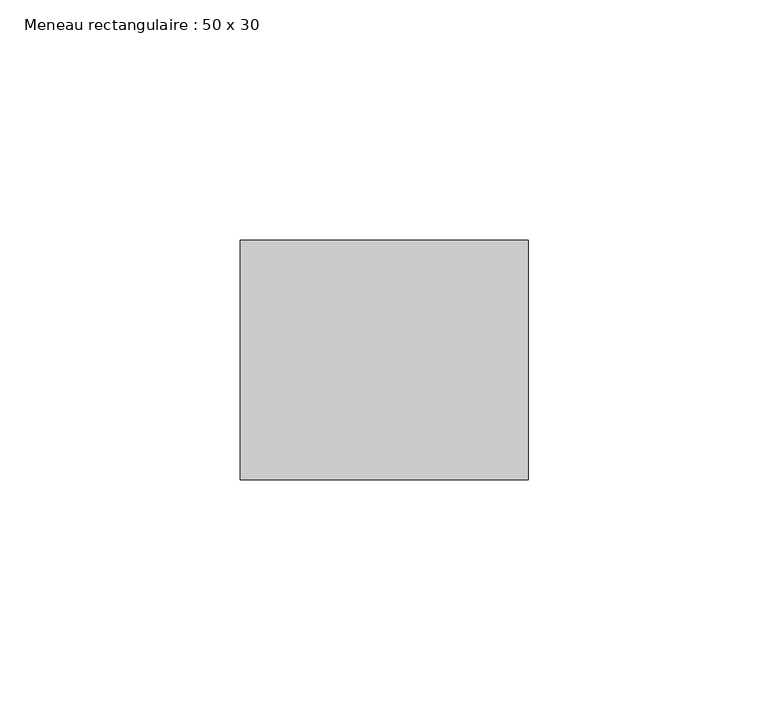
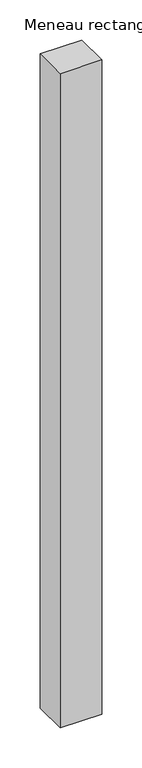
"""IFC4 building model written with IfcOpenShell, lengths in millimetres: member geometry, Meneau rectangulaire : 50 x 30."""

from ifc_helpers import new_model, si_unit, frame, origin, place, context, project, spatial, polyline, outline, extrude, source, transform, mapped, element, save


def meneau_rectangulaire_50_x_30_10d03ed9(model_context):
    return source(origin(), model_context, "Body", "SweptSolid", [
        extrude(outline(polyline([(0.0, 0.0), (0.0, -50.0), (-60.0, -50.0), (-60.0, 0.0), (0.0, 0.0)])), frame((0.0, 0.0, -996.0), z_axis=(0.0, 0.0, 1.0), x_axis=(1.0, 0.0, 0.0)), (0.0, 0.0, 1.0), 996.0),
    ])


if __name__ == "__main__":
    model = new_model("IFC4")
    model_context = context("Model", 3, world=origin())
    ifc_project = project(units=[si_unit("LENGTHUNIT", "METRE", prefix="MILLI")], contexts=[model_context])
    site = spatial("IfcSite", under=ifc_project)
    building = spatial("IfcBuilding", under=site)
    placement = place(None, origin())
    meneau_rectangulaire_50_x_30_shape = meneau_rectangulaire_50_x_30_10d03ed9(model_context)
    element("IfcMember", 1, ObjectType="Meneau rectangulaire : 50 x 30", at=placement, inside=building, context=model_context, shape_type="MappedRepresentation", body=[
        mapped(meneau_rectangulaire_50_x_30_shape, transform((0.0, 0.0, 0.0), x_axis=(1.0, 0.0, 0.0), y_axis=(0.0, 1.0, 0.0), z_axis=(0.0, 0.0, 1.0))),
    ])
    save(model, "model.ifc")
